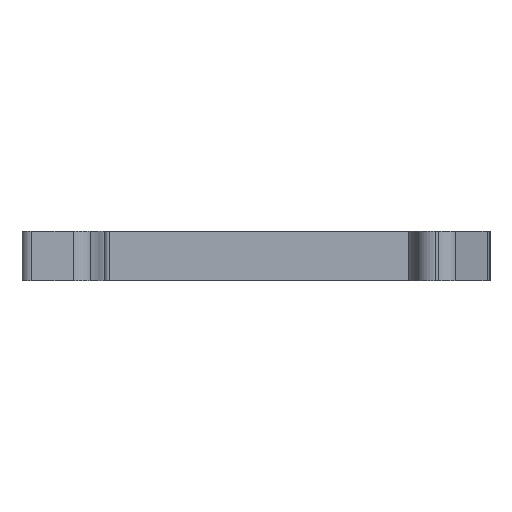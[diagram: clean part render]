
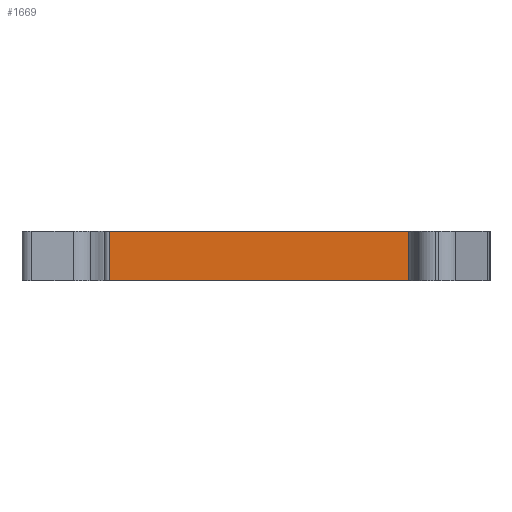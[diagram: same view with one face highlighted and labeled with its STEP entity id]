
A CAD part, front view. The second image highlights one B-rep face of the part: STEP entity #1669.
In plain terms, the highlighted planar face has unit normal (0, -1, 0) as drawn and (0.122, -0.993, 0) by its records, which use the part's own axes.
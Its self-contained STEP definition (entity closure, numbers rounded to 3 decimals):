
#1669=ADVANCED_FACE('',(#1988),#1867,.T.);
#1867=PLANE('',#5918);
#1988=FACE_OUTER_BOUND('',#2197,.T.);
#2197=EDGE_LOOP('',(#3078,#3079,#3080,#3081));
#3078=ORIENTED_EDGE('',*,*,#4311,.T.);
#3079=ORIENTED_EDGE('',*,*,#4659,.F.);
#3080=ORIENTED_EDGE('',*,*,#4434,.F.);
#3081=ORIENTED_EDGE('',*,*,#4658,.F.);
#3897=VERTEX_POINT('',#7510);
#3898=VERTEX_POINT('',#7512);
#4019=VERTEX_POINT('',#7760);
#4020=VERTEX_POINT('',#7761);
#4311=EDGE_CURVE('',#3898,#3897,#4890,.T.);
#4434=EDGE_CURVE('',#4019,#4020,#4956,.T.);
#4658=EDGE_CURVE('',#3898,#4019,#5085,.T.);
#4659=EDGE_CURVE('',#4020,#3897,#5086,.T.);
#4890=LINE('',#7511,#5305);
#4956=LINE('',#7759,#5371);
#5085=LINE('',#8193,#5500);
#5086=LINE('',#8195,#5501);
#5305=VECTOR('',#6225,1.);
#5371=VECTOR('',#6413,1.);
#5500=VECTOR('',#6794,1.);
#5501=VECTOR('',#6797,1.);
#5918=AXIS2_PLACEMENT_3D('',#8196,#6798,#6799);
#6225=DIRECTION('',(-0.993,-0.122,0.));
#6413=DIRECTION('',(-0.993,-0.122,0.));
#6794=DIRECTION('',(0.,0.,-1.));
#6797=DIRECTION('',(0.,0.,1.));
#6798=DIRECTION('',(0.122,-0.993,0.));
#6799=DIRECTION('',(-0.993,-0.122,0.));
#7510=CARTESIAN_POINT('',(20.815,2.387,0.));
#7511=CARTESIAN_POINT('',(0.,-0.169,0.));
#7512=CARTESIAN_POINT('',(53.021,6.341,0.));
#7759=CARTESIAN_POINT('',(0.,-0.169,-5.15));
#7760=CARTESIAN_POINT('',(53.021,6.341,-5.15));
#7761=CARTESIAN_POINT('',(20.815,2.387,-5.15));
#8193=CARTESIAN_POINT('',(53.021,6.341,0.));
#8195=CARTESIAN_POINT('',(20.815,2.387,0.));
#8196=CARTESIAN_POINT('',(20.815,2.387,0.));
